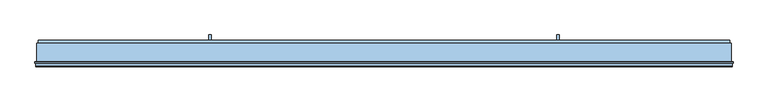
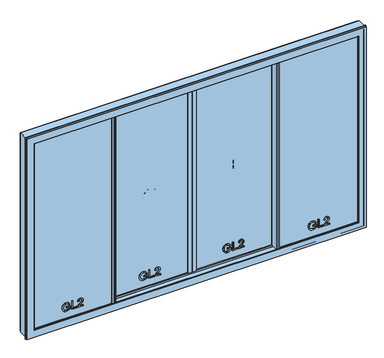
"""IFC4 building model written with IfcOpenShell, lengths in millimetres: window geometry, XL_XHS-9E_Metaglas : XL_XHS-9E_Metaglas."""

from ifc_helpers import new_model, si_unit, point, frame, frame_2d, origin, place, context, project, spatial, polyline, circle_curve, trimmed, segment, composite_curve, outline, extrude, faceted_brep, source, transform, mapped, element, save


def window_4e3b3f19(model_context):
    return source(origin(), model_context, "Body", "SolidModel", [
        extrude(outline(polyline([(979.25, -22.0486721), (1916.0, -22.0486721), (1916.0, -28.0486721), (979.25, -28.0486721), (979.25, -22.0486721)])), frame((0.0, 0.0, 85.6), z_axis=(0.0, 0.0, 1.0), x_axis=(1.0, 0.0, 0.0)), (0.0, 0.0, 1.0), 2330.4),
        extrude(outline(polyline([(2416.0, 1916.0), (2416.0, 979.25), (85.6, 979.25), (85.6, 1916.0), (2416.0, 1916.0)]), holes=[polyline([(98.6, 1903.0), (98.6, 992.25), (2403.0, 992.25), (2403.0, 1903.0), (98.6, 1903.0)])]), frame((0.0, -22.0486721, 0.0), z_axis=(0.0, 1.0, 0.0), x_axis=(0.0, 0.0, 1.0)), (0.0, 0.0, 1.0), 17.0),
        extrude(outline(polyline([(224.3483029, 1374.6372122), (224.3483029, 1402.8905494), (206.1994578, 1402.8905494), (199.3200645, 1390.1740951), (196.0949657, 1372.9940059), (200.3746595, 1353.8518794), (213.4712586, 1340.1176183), (235.3602373, 1335.396466), (255.0787122, 1339.3205406), (264.7540087, 1345.783001), (271.8663939, 1356.721359), (274.576458, 1372.7978022), (272.0625977, 1386.9122081), (265.3671454, 1396.6978691), (253.754337, 1402.4245655), (257.0162241, 1414.0005856), (273.6322275, 1406.4099538), (283.5650414, 1392.6389045), (287.1334967, 1372.9940059), (285.5945237, 1358.9041255), (280.9776047, 1346.5555532), (273.1938348, 1336.4173385), (262.1543093, 1328.9585311), (248.9933309, 1324.3692032), (234.8452025, 1322.8394272), (220.7982416, 1324.3753346), (208.1369696, 1328.9830566), (197.5818221, 1336.6043452), (189.8532345, 1347.1809526), (185.1167538, 1359.9127353), (183.5379269, 1373.99955), (187.5110524, 1395.2999176), (199.3568527, 1415.4475882), (236.9053417, 1415.4475882), (236.9053417, 1374.6372122), (224.3483029, 1374.6372122)])), frame((0.0, -38.0486721, 0.0), z_axis=(0.0, 1.0, 0.0), x_axis=(0.0, 0.0, 1.0)), (0.0, 0.0, 1.0), 10.0),
        extrude(outline(polyline([(185.1075567, 1435.8527762), (185.1075567, 1498.63797), (197.6645955, 1498.63797), (197.6645955, 1448.4098149), (285.5638669, 1448.4098149), (285.5638669, 1435.8527762), (185.1075567, 1435.8527762)])), frame((0.0, -38.0486721, 0.0), z_axis=(0.0, 1.0, 0.0), x_axis=(0.0, 0.0, 1.0)), (0.0, 0.0, 1.0), 10.0),
        extrude(outline(polyline([(197.6645955, 1572.4105728), (197.6645955, 1523.0898599), (204.0534795, 1528.7552427), (216.1322717, 1543.2007423), (233.3368863, 1561.1901719), (245.6486704, 1568.6091255), (257.5557843, 1570.8409429), (268.506405, 1568.7716067), (277.5195139, 1562.563598), (283.5527787, 1552.8055281), (285.5638669, 1540.0860081), (283.7551137, 1527.4584586), (278.3288543, 1517.6819946), (269.4567669, 1511.0999726), (257.3105297, 1508.0557491), (255.7408998, 1520.6127878), (268.4205659, 1525.8980258), (273.0068281, 1539.816228), (268.3102013, 1553.1703444), (256.7954949, 1558.2839041), (242.5707244, 1552.8760388), (221.6505016, 1531.2077893), (207.0946373, 1515.4747026), (193.7650464, 1507.8350199), (185.1075567, 1506.4861192), (185.1075567, 1572.4105728), (197.6645955, 1572.4105728)])), frame((0.0, -38.0486721, 0.0), z_axis=(0.0, 1.0, 0.0), x_axis=(0.0, 0.0, 1.0)), (0.0, 0.0, 1.0), 10.0),
        extrude(outline(polyline([(979.25, -22.0486721), (1916.0, -22.0486721), (1916.0, -25.0486721), (979.25, -25.0486721), (979.25, -22.0486721)])), frame((0.0, 0.0, 85.6), z_axis=(0.0, 0.0, 1.0), x_axis=(1.0, 0.0, 0.0)), (0.0, 0.0, 1.0), 2330.4),
        extrude(outline(polyline([(979.25, -25.0486721), (1916.0, -25.0486721), (1916.0, -28.0486721), (979.25, -28.0486721), (979.25, -25.0486721)])), frame((0.0, 0.0, 85.6), z_axis=(0.0, 0.0, 1.0), x_axis=(1.0, 0.0, 0.0)), (0.0, 0.0, 1.0), 2330.4),
        extrude(outline(polyline([(979.25, 0.9513279), (1916.0, 0.9513279), (1916.0, -2.0486721), (979.25, -2.0486721), (979.25, 0.9513279)])), frame((0.0, 0.0, 85.6), z_axis=(0.0, 0.0, 1.0), x_axis=(1.0, 0.0, 0.0)), (0.0, 0.0, 1.0), 2330.4),
        extrude(outline(polyline([(979.25, -2.0486721), (1916.0, -2.0486721), (1916.0, -5.0486721), (979.25, -5.0486721), (979.25, -2.0486721)])), frame((0.0, 0.0, 85.6), z_axis=(0.0, 0.0, 1.0), x_axis=(1.0, 0.0, 0.0)), (0.0, 0.0, 1.0), 2330.4),
        extrude(outline(polyline([(30.25, 62.8), (953.75, 62.8), (953.75, 56.8), (30.25, 56.8), (30.25, 62.8)])), frame((0.0, 0.0, 85.6), z_axis=(0.0, 0.0, 1.0), x_axis=(1.0, 0.0, 0.0)), (0.0, 0.0, 1.0), 2330.4),
        extrude(outline(polyline([(2416.0, 953.75), (2416.0, 30.25), (85.6, 30.25), (85.6, 953.75), (2416.0, 953.75)]), holes=[polyline([(98.6, 940.75), (98.6, 43.25), (2403.0, 43.25), (2403.0, 940.75), (98.6, 940.75)])]), frame((0.0, 62.8, 0.0), z_axis=(0.0, 1.0, 0.0), x_axis=(0.0, 0.0, 1.0)), (0.0, 0.0, 1.0), 17.0),
        extrude(outline(polyline([(224.3483029, 419.0122122), (224.3483029, 447.2655494), (206.1994578, 447.2655494), (199.3200645, 434.5490951), (196.0949657, 417.3690059), (200.3746595, 398.2268794), (213.4712586, 384.4926183), (235.3602373, 379.771466), (255.0787122, 383.6955406), (264.7540087, 390.158001), (271.8663939, 401.096359), (274.576458, 417.1728022), (272.0625977, 431.2872081), (265.3671454, 441.0728691), (253.754337, 446.7995655), (257.0162241, 458.3755856), (273.6322275, 450.7849538), (283.5650414, 437.0139045), (287.1334967, 417.3690059), (285.5945237, 403.2791255), (280.9776047, 390.9305532), (273.1938348, 380.7923385), (262.1543093, 373.3335311), (248.9933309, 368.7442032), (234.8452025, 367.2144272), (220.7982416, 368.7503346), (208.1369696, 373.3580566), (197.5818221, 380.9793452), (189.8532345, 391.5559526), (185.1167538, 404.2877353), (183.5379269, 418.37455), (187.5110524, 439.6749176), (199.3568527, 459.8225882), (236.9053417, 459.8225882), (236.9053417, 419.0122122), (224.3483029, 419.0122122)])), frame((0.0, 46.8, 0.0), z_axis=(0.0, 1.0, 0.0), x_axis=(0.0, 0.0, 1.0)), (0.0, 0.0, 1.0), 10.0),
        extrude(outline(polyline([(185.1075567, 480.2277762), (185.1075567, 543.01297), (197.6645955, 543.01297), (197.6645955, 492.7848149), (285.5638669, 492.7848149), (285.5638669, 480.2277762), (185.1075567, 480.2277762)])), frame((0.0, 46.8, 0.0), z_axis=(0.0, 1.0, 0.0), x_axis=(0.0, 0.0, 1.0)), (0.0, 0.0, 1.0), 10.0),
        extrude(outline(polyline([(197.6645955, 616.7855728), (197.6645955, 567.4648599), (204.0534795, 573.1302427), (216.1322717, 587.5757423), (233.3368863, 605.5651719), (245.6486704, 612.9841255), (257.5557843, 615.2159429), (268.506405, 613.1466067), (277.5195139, 606.938598), (283.5527787, 597.1805281), (285.5638669, 584.4610081), (283.7551137, 571.8334586), (278.3288543, 562.0569946), (269.4567669, 555.4749726), (257.3105297, 552.4307491), (255.7408998, 564.9877878), (268.4205659, 570.2730258), (273.0068281, 584.191228), (268.3102013, 597.5453444), (256.7954949, 602.6589041), (242.5707244, 597.2510388), (221.6505016, 575.5827893), (207.0946373, 559.8497026), (193.7650464, 552.2100199), (185.1075567, 550.8611192), (185.1075567, 616.7855728), (197.6645955, 616.7855728)])), frame((0.0, 46.8, 0.0), z_axis=(0.0, 1.0, 0.0), x_axis=(0.0, 0.0, 1.0)), (0.0, 0.0, 1.0), 10.0),
        extrude(outline(polyline([(30.25, 62.8), (953.75, 62.8), (953.75, 59.8), (30.25, 59.8), (30.25, 62.8)])), frame((0.0, 0.0, 85.6), z_axis=(0.0, 0.0, 1.0), x_axis=(1.0, 0.0, 0.0)), (0.0, 0.0, 1.0), 2330.4),
        extrude(outline(polyline([(30.25, 59.8), (953.75, 59.8), (953.75, 56.8), (30.25, 56.8), (30.25, 59.8)])), frame((0.0, 0.0, 85.6), z_axis=(0.0, 0.0, 1.0), x_axis=(1.0, 0.0, 0.0)), (0.0, 0.0, 1.0), 2330.4),
        extrude(outline(polyline([(30.25, 85.8), (953.75, 85.8), (953.75, 82.8), (30.25, 82.8), (30.25, 85.8)])), frame((0.0, 0.0, 85.6), z_axis=(0.0, 0.0, 1.0), x_axis=(1.0, 0.0, 0.0)), (0.0, 0.0, 1.0), 2330.4),
        extrude(outline(polyline([(30.25, 82.8), (953.75, 82.8), (953.75, 79.8), (30.25, 79.8), (30.25, 82.8)])), frame((0.0, 0.0, 85.6), z_axis=(0.0, 0.0, 1.0), x_axis=(1.0, 0.0, 0.0)), (0.0, 0.0, 1.0), 2330.4),
        extrude(outline(composite_curve([segment(trimmed(circle_curve(frame_2d((27.9933183, 1063.3761618)), 10.0), [point((17.9933183, 1063.3761618))], [point((37.9933183, 1063.3761618))], False, "CARTESIAN"), True, "CONTINUOUS"), segment(trimmed(circle_curve(frame_2d((27.9933183, 1063.3761618)), 10.0), [point((37.9933183, 1063.3761618))], [point((17.9933183, 1063.3761618))], False, "CARTESIAN"), True, "CONTINUOUS")], self_intersect=False)), frame((1004.5, 0.0, 0.0), z_axis=(1.0, 0.0, 0.0), x_axis=(0.0, 1.0, 0.0)), (0.0, 0.0, 1.0), 33.0),
        extrude(outline(polyline([(1004.5, 53.9933183), (1004.5, 67.9933183), (1017.5, 67.9933183), (1017.5, 53.9933183), (1004.5, 53.9933183)])), frame((0.0, 0.0, 1080.3761618), z_axis=(0.0, 0.0, 1.0), x_axis=(1.0, 0.0, 0.0)), (0.0, 0.0, 1.0), 65.0),
        extrude(outline(polyline([(1004.5, 132.9933183), (1004.5, 15.9933183), (990.5, 15.9933183), (990.5, 132.9933183), (1004.5, 132.9933183)])), frame((0.0, 0.0, 1037.8761618), z_axis=(0.0, 0.0, 1.0), x_axis=(1.0, 0.0, 0.0)), (0.0, 0.0, 1.0), 127.0),
        extrude(outline(polyline([(1310.8, 1427.625), (1270.8, 1427.625), (1270.8, 1387.625), (1230.8, 1387.625), (1230.8, 1427.625), (1190.8, 1427.625), (1190.8, 1467.625), (1230.8, 1467.625), (1230.8, 1507.625), (1270.8, 1507.625), (1270.8, 1467.625), (1310.8, 1467.625), (1310.8, 1427.625)])), frame((0.0, -21.2986721, 0.0), z_axis=(0.0, 1.0, 0.0), x_axis=(0.0, 0.0, 1.0)), (0.0, 0.0, 1.0), 10.0),
        extrude(outline(polyline([(1263.3, 429.7), (1238.3, 429.7), (1238.3, 492.0), (1201.4, 492.0), (1250.8, 554.3), (1300.2, 492.0), (1263.3, 492.0), (1263.3, 429.7)])), frame((0.0, 58.3, 0.0), z_axis=(0.0, 1.0, 0.0), x_axis=(0.0, 0.0, 1.0)), (0.0, 0.0, 1.0), 10.0),
        extrude(outline(composite_curve([segment(trimmed(circle_curve(frame_2d((27.9822502, 1063.3761618)), 10.0), [point((17.9822502, 1063.3761618))], [point((37.9822502, 1063.3761618))], False, "CARTESIAN"), True, "CONTINUOUS"), segment(trimmed(circle_curve(frame_2d((27.9822502, 1063.3761618)), 10.0), [point((37.9822502, 1063.3761618))], [point((17.9822502, 1063.3761618))], False, "CARTESIAN"), True, "CONTINUOUS")], self_intersect=False)), frame((-1037.5, 0.0, 0.0), z_axis=(1.0, 0.0, 0.0), x_axis=(0.0, 1.0, 0.0)), (0.0, 0.0, 1.0), 33.0),
        extrude(outline(polyline([(-1004.5, 67.9822502), (-1004.5, 53.9822502), (-1017.5, 53.9822502), (-1017.5, 67.9822502), (-1004.5, 67.9822502)])), frame((0.0, 0.0, 1080.3761618), z_axis=(0.0, 0.0, 1.0), x_axis=(1.0, 0.0, 0.0)), (0.0, 0.0, 1.0), 65.0),
        extrude(outline(polyline([(-990.5, 132.9822502), (-990.5, 15.9822502), (-1004.5, 15.9822502), (-1004.5, 132.9822502), (-990.5, 132.9822502)])), frame((0.0, 0.0, 1037.8761618), z_axis=(0.0, 0.0, 1.0), x_axis=(1.0, 0.0, 0.0)), (0.0, 0.0, 1.0), 127.0),
        extrude(outline(polyline([(-953.75, 62.8), (-30.25, 62.8), (-30.25, 56.8), (-953.75, 56.8), (-953.75, 62.8)])), frame((0.0, 0.0, 85.6), z_axis=(0.0, 0.0, 1.0), x_axis=(1.0, 0.0, 0.0)), (0.0, 0.0, 1.0), 2330.4),
        extrude(outline(polyline([(2416.0, -30.25), (2416.0, -953.75), (85.6, -953.75), (85.6, -30.25), (2416.0, -30.25)]), holes=[polyline([(98.6, -43.25), (98.6, -940.75), (2403.0, -940.75), (2403.0, -43.25), (98.6, -43.25)])]), frame((0.0, 62.8, 0.0), z_axis=(0.0, 1.0, 0.0), x_axis=(0.0, 0.0, 1.0)), (0.0, 0.0, 1.0), 17.0),
        extrude(outline(polyline([(224.3483029, -564.9877878), (224.3483029, -536.7344506), (206.1994578, -536.7344506), (199.3200645, -549.4509049), (196.0949657, -566.6309941), (200.3746595, -585.7731206), (213.4712586, -599.5073817), (235.3602373, -604.228534), (255.0787122, -600.3044594), (264.7540087, -593.841999), (271.8663939, -582.903641), (274.576458, -566.8271978), (272.0625977, -552.7127919), (265.3671454, -542.9271309), (253.754337, -537.2004345), (257.0162241, -525.6244144), (273.6322275, -533.2150462), (283.5650414, -546.9860955), (287.1334967, -566.6309941), (285.5945237, -580.7208745), (280.9776047, -593.0694468), (273.1938348, -603.2076615), (262.1543093, -610.6664689), (248.9933309, -615.2557968), (234.8452025, -616.7855728), (220.7982416, -615.2496654), (208.1369696, -610.6419434), (197.5818221, -603.0206548), (189.8532345, -592.4440474), (185.1167538, -579.7122647), (183.5379269, -565.62545), (187.5110524, -544.3250824), (199.3568527, -524.1774118), (236.9053417, -524.1774118), (236.9053417, -564.9877878), (224.3483029, -564.9877878)])), frame((0.0, 46.8, 0.0), z_axis=(0.0, 1.0, 0.0), x_axis=(0.0, 0.0, 1.0)), (0.0, 0.0, 1.0), 10.0),
        extrude(outline(polyline([(185.1075567, -503.7722238), (185.1075567, -440.98703), (197.6645955, -440.98703), (197.6645955, -491.2151851), (285.5638669, -491.2151851), (285.5638669, -503.7722238), (185.1075567, -503.7722238)])), frame((0.0, 46.8, 0.0), z_axis=(0.0, 1.0, 0.0), x_axis=(0.0, 0.0, 1.0)), (0.0, 0.0, 1.0), 10.0),
        extrude(outline(polyline([(197.6645955, -367.2144272), (197.6645955, -416.5351401), (204.0534795, -410.8697573), (216.1322717, -396.4242577), (233.3368863, -378.4348281), (245.6486704, -371.0158745), (257.5557843, -368.7840571), (268.506405, -370.8533933), (277.5195139, -377.061402), (283.5527787, -386.8194719), (285.5638669, -399.5389919), (283.7551137, -412.1665414), (278.3288543, -421.9430054), (269.4567669, -428.5250274), (257.3105297, -431.5692509), (255.7408998, -419.0122122), (268.4205659, -413.7269742), (273.0068281, -399.808772), (268.3102013, -386.4546556), (256.7954949, -381.3410959), (242.5707244, -386.7489612), (221.6505016, -408.4172107), (207.0946373, -424.1502974), (193.7650464, -431.7899801), (185.1075567, -433.1388808), (185.1075567, -367.2144272), (197.6645955, -367.2144272)])), frame((0.0, 46.8, 0.0), z_axis=(0.0, 1.0, 0.0), x_axis=(0.0, 0.0, 1.0)), (0.0, 0.0, 1.0), 10.0),
        extrude(outline(polyline([(-953.75, 62.8), (-30.25, 62.8), (-30.25, 59.8), (-953.75, 59.8), (-953.75, 62.8)])), frame((0.0, 0.0, 85.6), z_axis=(0.0, 0.0, 1.0), x_axis=(1.0, 0.0, 0.0)), (0.0, 0.0, 1.0), 2330.4),
        extrude(outline(polyline([(-953.75, 59.8), (-30.25, 59.8), (-30.25, 56.8), (-953.75, 56.8), (-953.75, 59.8)])), frame((0.0, 0.0, 85.6), z_axis=(0.0, 0.0, 1.0), x_axis=(1.0, 0.0, 0.0)), (0.0, 0.0, 1.0), 2330.4),
        extrude(outline(polyline([(-953.75, 85.8), (-30.25, 85.8), (-30.25, 82.8), (-953.75, 82.8), (-953.75, 85.8)])), frame((0.0, 0.0, 85.6), z_axis=(0.0, 0.0, 1.0), x_axis=(1.0, 0.0, 0.0)), (0.0, 0.0, 1.0), 2330.4),
        extrude(outline(polyline([(-953.75, 82.8), (-30.25, 82.8), (-30.25, 79.8), (-953.75, 79.8), (-953.75, 82.8)])), frame((0.0, 0.0, 85.6), z_axis=(0.0, 0.0, 1.0), x_axis=(1.0, 0.0, 0.0)), (0.0, 0.0, 1.0), 2330.4),
        extrude(outline(polyline([(-1916.0, -22.0486721), (-979.25, -22.0486721), (-979.25, -28.0486721), (-1916.0, -28.0486721), (-1916.0, -22.0486721)])), frame((0.0, 0.0, 85.6), z_axis=(0.0, 0.0, 1.0), x_axis=(1.0, 0.0, 0.0)), (0.0, 0.0, 1.0), 2330.4),
        extrude(outline(polyline([(2416.0, -979.25), (2416.0, -1916.0), (85.6, -1916.0), (85.6, -979.25), (2416.0, -979.25)]), holes=[polyline([(98.6, -992.25), (98.6, -1903.0), (2403.0, -1903.0), (2403.0, -992.25), (98.6, -992.25)])]), frame((0.0, -22.0486721, 0.0), z_axis=(0.0, 1.0, 0.0), x_axis=(0.0, 0.0, 1.0)), (0.0, 0.0, 1.0), 17.0),
        extrude(outline(polyline([(224.3483029, -1520.6127878), (224.3483029, -1492.3594506), (206.1994578, -1492.3594506), (199.3200645, -1505.0759049), (196.0949657, -1522.2559941), (200.3746595, -1541.3981206), (213.4712586, -1555.1323817), (235.3602373, -1559.853534), (255.0787122, -1555.9294594), (264.7540087, -1549.466999), (271.8663939, -1538.528641), (274.576458, -1522.4521978), (272.0625977, -1508.3377919), (265.3671454, -1498.5521309), (253.754337, -1492.8254345), (257.0162241, -1481.2494144), (273.6322275, -1488.8400462), (283.5650414, -1502.6110955), (287.1334967, -1522.2559941), (285.5945237, -1536.3458745), (280.9776047, -1548.6944468), (273.1938348, -1558.8326615), (262.1543093, -1566.2914689), (248.9933309, -1570.8807968), (234.8452025, -1572.4105728), (220.7982416, -1570.8746654), (208.1369696, -1566.2669434), (197.5818221, -1558.6456548), (189.8532345, -1548.0690474), (185.1167538, -1535.3372647), (183.5379269, -1521.25045), (187.5110524, -1499.9500824), (199.3568527, -1479.8024118), (236.9053417, -1479.8024118), (236.9053417, -1520.6127878), (224.3483029, -1520.6127878)])), frame((0.0, -38.0486721, 0.0), z_axis=(0.0, 1.0, 0.0), x_axis=(0.0, 0.0, 1.0)), (0.0, 0.0, 1.0), 10.0),
        extrude(outline(polyline([(185.1075567, -1459.3972238), (185.1075567, -1396.61203), (197.6645955, -1396.61203), (197.6645955, -1446.8401851), (285.5638669, -1446.8401851), (285.5638669, -1459.3972238), (185.1075567, -1459.3972238)])), frame((0.0, -38.0486721, 0.0), z_axis=(0.0, 1.0, 0.0), x_axis=(0.0, 0.0, 1.0)), (0.0, 0.0, 1.0), 10.0),
        extrude(outline(polyline([(197.6645955, -1322.8394272), (197.6645955, -1372.1601401), (204.0534795, -1366.4947573), (216.1322717, -1352.0492577), (233.3368863, -1334.0598281), (245.6486704, -1326.6408745), (257.5557843, -1324.4090571), (268.506405, -1326.4783933), (277.5195139, -1332.686402), (283.5527787, -1342.4444719), (285.5638669, -1355.1639919), (283.7551137, -1367.7915414), (278.3288543, -1377.5680054), (269.4567669, -1384.1500274), (257.3105297, -1387.1942509), (255.7408998, -1374.6372122), (268.4205659, -1369.3519742), (273.0068281, -1355.433772), (268.3102013, -1342.0796556), (256.7954949, -1336.9660959), (242.5707244, -1342.3739612), (221.6505016, -1364.0422107), (207.0946373, -1379.7752974), (193.7650464, -1387.4149801), (185.1075567, -1388.7638808), (185.1075567, -1322.8394272), (197.6645955, -1322.8394272)])), frame((0.0, -38.0486721, 0.0), z_axis=(0.0, 1.0, 0.0), x_axis=(0.0, 0.0, 1.0)), (0.0, 0.0, 1.0), 10.0),
        extrude(outline(polyline([(-1916.0, -22.0486721), (-979.25, -22.0486721), (-979.25, -25.0486721), (-1916.0, -25.0486721), (-1916.0, -22.0486721)])), frame((0.0, 0.0, 85.6), z_axis=(0.0, 0.0, 1.0), x_axis=(1.0, 0.0, 0.0)), (0.0, 0.0, 1.0), 2330.4),
        extrude(outline(polyline([(-1916.0, -25.0486721), (-979.25, -25.0486721), (-979.25, -28.0486721), (-1916.0, -28.0486721), (-1916.0, -25.0486721)])), frame((0.0, 0.0, 85.6), z_axis=(0.0, 0.0, 1.0), x_axis=(1.0, 0.0, 0.0)), (0.0, 0.0, 1.0), 2330.4),
        extrude(outline(polyline([(-1916.0, 0.9513279), (-979.25, 0.9513279), (-979.25, -2.0486721), (-1916.0, -2.0486721), (-1916.0, 0.9513279)])), frame((0.0, 0.0, 85.6), z_axis=(0.0, 0.0, 1.0), x_axis=(1.0, 0.0, 0.0)), (0.0, 0.0, 1.0), 2330.4),
        extrude(outline(polyline([(-1916.0, -2.0486721), (-979.25, -2.0486721), (-979.25, -5.0486721), (-1916.0, -5.0486721), (-1916.0, -2.0486721)])), frame((0.0, 0.0, 85.6), z_axis=(0.0, 0.0, 1.0), x_axis=(1.0, 0.0, 0.0)), (0.0, 0.0, 1.0), 2330.4),
        extrude(outline(polyline([(1263.3, -429.7), (1263.3, -492.0), (1300.2, -492.0), (1250.8, -554.3), (1201.4, -492.0), (1238.3, -492.0), (1238.3, -429.7), (1263.3, -429.7)])), frame((0.0, 58.3, 0.0), z_axis=(0.0, 1.0, 0.0), x_axis=(0.0, 0.0, 1.0)), (0.0, 0.0, 1.0), 10.0),
        extrude(outline(polyline([(1310.8, -1467.625), (1270.8, -1467.625), (1270.8, -1507.625), (1230.8, -1507.625), (1230.8, -1467.625), (1190.8, -1467.625), (1190.8, -1427.625), (1230.8, -1427.625), (1230.8, -1387.625), (1270.8, -1387.625), (1270.8, -1427.625), (1310.8, -1427.625), (1310.8, -1467.625)])), frame((0.0, -21.2986721, 0.0), z_axis=(0.0, 1.0, 0.0), x_axis=(0.0, 0.0, 1.0)), (0.0, 0.0, 1.0), 10.0),
        faceted_brep([(1921.3999235, -39.4974407, 2421.3999235), (1921.3999235, -41.2974407, 2421.3999235), (1921.3999235, -41.2974407, 78.6000765), (1921.3999235, -39.4974407, 78.6000765), (1936.8499257, -41.2974407, 63.1500743), (-1936.8499257, -41.2974407, 63.1500743), (-1936.8499257, -41.2974407, 2436.8499257), (1936.8499257, -41.2974407, 2436.8499257), (-1921.3999235, -41.2974407, 2421.3999235), (-1921.3999235, -41.2974407, 78.6000765), (-1921.3999235, -39.4974407, 78.6000765), (-1921.3999235, -39.4974407, 2421.3999235), (1907.2000109, -39.4974407, 2407.2000109), (-1907.2000109, -39.4974407, 2407.2000109), (-1907.2000109, -39.4974407, 92.7999891), (1907.2000109, -39.4974407, 92.7999891), (1936.8499257, -39.4974407, 2436.8499257), (1936.8499257, -39.4974407, 63.1500743), (1954.9499135, -39.4974407, 45.0500865), (-1954.9499135, -39.4974407, 45.0500865), (-1954.9499135, -39.4974407, 2454.9499135), (1954.9499135, -39.4974407, 2454.9499135), (-1936.8499257, -39.4974407, 2436.8499257), (-1936.8499257, -39.4974407, 63.1500743), (1954.9499135, -43.2972427, 2454.9499135), (1954.9499135, -43.2972427, 45.0500865), (1967.6999683, -43.2972427, 32.3000317), (-1967.6999683, -43.2972427, 32.3000317), (-1967.6999683, -43.2972427, 2467.6999683), (1967.6999683, -43.2972427, 2467.6999683), (-1954.9499135, -43.2972427, 2454.9499135), (-1954.9499135, -43.2972427, 45.0500865), (1969.8212887, -42.4187944, 2469.8212887), (1969.8212887, -42.4187944, 30.1787113), (1970.6999683, -40.297474, 2470.6999683), (1970.6999683, -40.297474, 29.3000317), (-1969.8212887, -42.4187944, 30.1787113), (1970.6999683, 13.8542105, 2470.6999683), (1970.6999683, 13.8542105, 29.3000317), (-1970.6999683, -40.297474, 29.3000317), (1969.2355022, 17.3897444, 2469.2355022), (1969.2355022, 17.3897444, 30.7644978), (-1970.6999683, 13.8542105, 29.3000317), (1965.6999683, 18.8542105, 2465.6999683), (1965.6999683, 18.8542105, 34.3000317), (-1969.2355022, 17.3897444, 30.7644978), (-1965.6999683, 18.8542105, 2465.6999683), (-1965.6999683, 18.8542105, 34.3000317), (1949.0999628, 18.8542105, 50.9000372), (-1949.0999628, 18.8542105, 50.9000372), (-1949.0999628, 18.8542105, 2449.0999628), (1949.0999628, 18.8542105, 2449.0999628), (1949.0999628, 17.0041087, 2449.0999628), (1949.0999628, 17.0041087, 50.9000372), (-1949.0999628, 17.0041087, 2449.0999628), (-1949.0999628, 17.0041087, 50.9000372), (1941.1999683, 17.0041087, 58.8000317), (-1941.1999683, 17.0041087, 58.8000317), (-1941.1999683, 17.0041087, 2441.1999683), (1941.1999683, 17.0041087, 2441.1999683), (1941.1999683, 18.8542105, 2441.1999683), (1941.1999683, 18.8542105, 58.8000317), (-1941.1999683, 18.8542105, 2441.1999683), (-1941.1999683, 18.8542105, 58.8000317), (1928.7000102, 18.8542105, 71.2999898), (-1928.7000102, 18.8542105, 71.2999898), (-1928.7000102, 18.8542105, 2428.7000102), (1928.7000102, 18.8542105, 2428.7000102), (1928.7000102, 17.00255, 2428.7000102), (1928.7000102, 17.00255, 71.2999898), (-1928.7000102, 17.00255, 2428.7000102), (-1928.7000102, 17.00255, 71.2999898), (1907.2000101, 17.00255, 92.7999899), (-1907.2000101, 17.00255, 92.7999899), (-1907.2000101, 17.00255, 2407.2000101), (1907.2000101, 17.00255, 2407.2000101), (1907.2000101, 40.3025501, 2407.2000101), (1907.2000101, 40.3025501, 92.7999899), (1928.7000102, 40.3025501, 71.2999898), (-1928.7000102, 40.3025501, 71.2999898), (-1928.7000102, 40.3025501, 2428.7000102), (1928.7000102, 40.3025501, 2428.7000102), (-1907.2000101, 40.3025501, 2407.2000101), (-1907.2000101, 40.3025501, 92.7999899), (1928.7000102, 38.3025501, 2428.7000102), (1928.7000102, 38.3025501, 71.2999898), (1941.2219878, 38.3025501, 58.7780122), (-1941.2219878, 38.3025501, 58.7780122), (-1941.2219878, 38.3025501, 2441.2219878), (1941.2219878, 38.3025501, 2441.2219878), (-1928.7000102, 38.3025501, 2428.7000102), (-1928.7000102, 38.3025501, 71.2999898), (1941.2219878, 40.1009632, 2441.2219878), (1941.2219878, 40.1009632, 58.7780122), (1949.1219823, 40.1009632, 50.8780177), (-1949.1219823, 40.1009632, 50.8780177), (-1949.1219823, 40.1009632, 2449.1219823), (1949.1219823, 40.1009632, 2449.1219823), (-1941.2219878, 40.1009632, 2441.2219878), (-1941.2219878, 40.1009632, 58.7780122), (1949.1219823, 38.2508609, 2449.1219823), (1949.1219823, 38.2508609, 50.8780177), (1965.7226763, 38.2508609, 34.2773237), (-1965.7226763, 38.2508609, 34.2773237), (-1965.7226763, 38.2508609, 2465.7226763), (1965.7226763, 38.2508609, 2465.7226763), (-1949.1219823, 38.2508609, 2449.1219823), (-1949.1219823, 38.2508609, 50.8780177), (1969.2582102, 39.715327, 2469.2582102), (1969.2582102, 39.715327, 30.7417898), (1970.7226763, 43.2508609, 2470.7226763), (1970.7226763, 43.2508609, 29.2773237), (-1969.2582102, 39.715327, 30.7417898), (1970.7226763, 97.4025672, 2470.7226763), (1970.7226763, 97.4025672, 29.2773237), (-1970.7226763, 43.2508609, 29.2773237), (1969.8439966, 99.5238875, 2469.8439966), (1969.8439966, 99.5238875, 30.1560034), (-1970.7226763, 97.4025672, 29.2773237), (1967.7226763, 100.4025672, 2467.7226763), (1967.7226763, 100.4025672, 32.2773237), (-1969.8439966, 99.5238875, 30.1560034), (-1967.7226763, 100.4025672, 2467.7226763), (-1967.7226763, 100.4025672, 32.2773237), (1937.7723175, 100.4025672, 62.2276825), (-1937.7723175, 100.4025672, 62.2276825), (-1937.7723175, 100.4025672, 2437.7723175), (1937.7723175, 100.4025672, 2437.7723175), (1937.7723175, 96.6025324, 2437.7723175), (1937.7723175, 96.6025324, 62.2276825), (-1937.7723175, 96.6025324, 2437.7723175), (-1937.7723175, 96.6025324, 62.2276825), (1907.222332, 96.6025324, 92.777668), (-1907.222332, 96.6025324, 92.777668), (-1907.222332, 96.6025324, 2407.222332), (1907.222332, 96.6025324, 2407.222332), (1907.222332, 100.4025324, 2407.222332), (1907.222332, 100.4025324, 92.777668), (1908.0971217, 102.5199556, 2408.0971217), (1908.0971217, 102.5199556, 91.9028783), (-1907.222332, 100.4025324, 92.777668), (1910.2113195, 103.4025122, 2410.2113195), (1910.2113195, 103.4025122, 89.7886805), (-1908.0971217, 102.5199556, 91.9028783), (1981.7280274, 103.4025122, 18.2719726), (-1981.7280274, 103.4025122, 18.2719726), (-1981.7280274, 103.4025122, 2481.7280274), (1981.7280274, 103.4025122, 2481.7280274), (-1910.2113195, 103.4025122, 2410.2113195), (-1910.2113195, 103.4025122, 89.7886805), (1981.7280274, 45.7517947, 2481.7280274), (1981.7280274, 45.7517947, 18.2719726), (1985.0219895, 45.7517947, 14.9780105), (-1985.0219895, 45.7517947, 14.9780105), (-1985.0219895, 45.7517947, 2485.0219895), (1985.0219895, 45.7517947, 2485.0219895), (-1981.7280274, 45.7517947, 2481.7280274), (-1981.7280274, 45.7517947, 18.2719726), (1985.0219895, 38.8926376, 2485.0219895), (1985.0219895, 38.8926376, 14.9780105), (1981.7280274, 39.4549169, 2481.7280274), (1981.7280274, 39.4549169, 18.2719726), (-1985.0219895, 38.8926376, 14.9780105), (1981.7280274, 17.6566355, 2481.7280274), (1981.7280274, 17.6566355, 18.2719726), (-1981.7280274, 39.4549169, 18.2719726), (1984.9999912, 18.2124345, 2484.9999912), (1984.9999912, 18.2124345, 15.0000088), (-1981.7280274, 17.6566355, 18.2719726), (1907.2000109, -45.7974407, 2407.2000109), (1907.2000109, -45.7974407, 92.7999891), (-1907.2000109, -45.7974407, 92.7999891), (1907.9102446, -47.7357312, 2407.9102446), (1907.9102446, -47.7357312, 92.0897554), (-1969.8212887, -42.4187944, 2469.8212887), (-1970.6999683, -40.297474, 2470.6999683), (-1970.6999683, 13.8542105, 2470.6999683), (-1969.2355022, 17.3897444, 2469.2355022), (-1969.2582102, 39.715327, 2469.2582102), (-1970.7226763, 43.2508609, 2470.7226763), (-1970.7226763, 97.4025672, 2470.7226763), (-1969.8439966, 99.5238875, 2469.8439966), (-1907.222332, 100.4025324, 2407.222332), (-1908.0971217, 102.5199556, 2408.0971217), (-1985.0219895, 38.8926376, 2485.0219895), (-1981.7280274, 39.4549169, 2481.7280274), (-1984.9999912, 18.2124345, 15.0000088), (-1981.7280274, 17.6566355, 2481.7280274), (-1907.2000109, -45.7974407, 2407.2000109), (-1907.9102446, -47.7357312, 92.0897554), (-1984.9999912, 18.2124345, 2484.9999912), (-1907.9102446, -47.7357312, 2407.9102446), (1984.9999912, 11.3532947, 2484.9999912), (1984.9999912, 11.3532947, 15.0000088), (-1984.9999912, 11.3532947, 2484.9999912), (-1984.9999912, 11.3532947, 15.0000088), (1981.6999683, 11.3532947, 18.3000317), (-1981.6999683, 11.3532947, 18.3000317), (-1981.6999683, 11.3532947, 2481.6999683), (1981.6999683, 11.3532947, 2481.6999683), (1981.6999683, -26.9457537, 2481.6999683), (1981.6999683, -26.9457537, 18.3000317), (1991.6999768, -26.9457537, 8.3000232), (-1991.6999768, -26.9457537, 8.3000232), (-1991.6999768, -26.9457537, 2491.6999768), (1991.6999768, -26.9457537, 2491.6999768), (-1981.6999683, -26.9457537, 2481.6999683), (-1981.6999683, -26.9457537, 18.3000317), (1991.6999768, -23.8957567, 2491.6999768), (1991.6999768, -23.8957567, 8.3000232), (2000.1999683, -23.8957567, -0.1999683), (-2000.1999683, -23.8957567, -0.1999683), (-2000.1999683, -23.8957567, 2500.1999683), (2000.1999683, -23.8957567, 2500.1999683), (-1991.6999768, -23.8957567, 2491.6999768), (-1991.6999768, -23.8957567, 8.3000232), (2000.1999683, -28.6974407, 2500.1999683), (2000.1999683, -28.6974407, -0.1999683), (-2000.1999683, -28.6974407, 2500.1999683), (-2000.1999683, -28.6974407, -0.1999683), (1994.7000109, -28.6974407, 5.2999891), (-1994.7000109, -28.6974407, 5.2999891), (-1994.7000109, -28.6974407, 2494.7000109), (1994.7000109, -28.6974407, 2494.7000109), (1994.7000109, -46.2957343, 2494.7000109), (1994.7000109, -46.2957343, 5.2999891), (1996.7000109, -46.2957343, 3.2999891), (-1996.7000109, -46.2957343, 3.2999891), (-1996.7000109, -46.2957343, 2496.7000109), (1996.7000109, -46.2957343, 2496.7000109), (-1994.7000109, -46.2957343, 2494.7000109), (-1994.7000109, -46.2957343, 5.2999891), (1996.7000109, -48.7974407, 2496.7000109), (1996.7000109, -48.7974407, 3.2999891), (-1996.7000109, -48.7974407, 2496.7000109), (-1996.7000109, -48.7974407, 3.2999891), (1910.2000109, -48.7974407, 89.7999891), (-1910.2000109, -48.7974407, 89.7999891), (-1910.2000109, -48.7974407, 2410.2000109), (1910.2000109, -48.7974407, 2410.2000109)], [[[0, 1, 2, 3]], [[4, 5, 6, 7], [1, 8, 9, 2]], [[3, 2, 9, 10]], [[3, 10, 11, 0], [12, 13, 14, 15]], [[7, 16, 17, 4]], [[18, 19, 20, 21], [16, 22, 23, 17]], [[4, 17, 23, 5]], [[21, 24, 25, 18]], [[26, 27, 28, 29], [24, 30, 31, 25]], [[18, 25, 31, 19]], [[29, 32, 33, 26]], [[32, 34, 35, 33]], [[26, 33, 36, 27]], [[34, 37, 38, 35]], [[33, 35, 39, 36]], [[37, 40, 41, 38]], [[35, 38, 42, 39]], [[40, 43, 44, 41]], [[38, 41, 45, 42]], [[43, 46, 47, 44], [48, 49, 50, 51]], [[41, 44, 47, 45]], [[51, 52, 53, 48]], [[52, 54, 55, 53], [56, 57, 58, 59]], [[48, 53, 55, 49]], [[59, 60, 61, 56]], [[60, 62, 63, 61], [64, 65, 66, 67]], [[56, 61, 63, 57]], [[67, 68, 69, 64]], [[68, 70, 71, 69], [72, 73, 74, 75]], [[64, 69, 71, 65]], [[75, 76, 77, 72]], [[78, 79, 80, 81], [76, 82, 83, 77]], [[72, 77, 83, 73]], [[81, 84, 85, 78]], [[86, 87, 88, 89], [84, 90, 91, 85]], [[78, 85, 91, 79]], [[89, 92, 93, 86]], [[94, 95, 96, 97], [92, 98, 99, 93]], [[86, 93, 99, 87]], [[97, 100, 101, 94]], [[102, 103, 104, 105], [100, 106, 107, 101]], [[94, 101, 107, 95]], [[105, 108, 109, 102]], [[108, 110, 111, 109]], [[102, 109, 112, 103]], [[110, 113, 114, 111]], [[109, 111, 115, 112]], [[113, 116, 117, 114]], [[111, 114, 118, 115]], [[116, 119, 120, 117]], [[114, 117, 121, 118]], [[119, 122, 123, 120], [124, 125, 126, 127]], [[117, 120, 123, 121]], [[127, 128, 129, 124]], [[128, 130, 131, 129], [132, 133, 134, 135]], [[124, 129, 131, 125]], [[135, 136, 137, 132]], [[136, 138, 139, 137]], [[132, 137, 140, 133]], [[138, 141, 142, 139]], [[137, 139, 143, 140]], [[144, 145, 146, 147], [141, 148, 149, 142]], [[139, 142, 149, 143]], [[147, 150, 151, 144]], [[152, 153, 154, 155], [150, 156, 157, 151]], [[144, 151, 157, 145]], [[155, 158, 159, 152]], [[158, 160, 161, 159]], [[152, 159, 162, 153]], [[160, 163, 164, 161]], [[159, 161, 165, 162]], [[163, 166, 167, 164]], [[161, 164, 168, 165]], [[169, 12, 15, 170]], [[170, 15, 14, 171]], [[172, 169, 170, 173]], [[10, 9, 8, 11]], [[5, 23, 22, 6]], [[19, 31, 30, 20]], [[27, 36, 174, 28]], [[36, 39, 175, 174]], [[39, 42, 176, 175]], [[42, 45, 177, 176]], [[45, 47, 46, 177]], [[49, 55, 54, 50]], [[57, 63, 62, 58]], [[65, 71, 70, 66]], [[73, 83, 82, 74]], [[79, 91, 90, 80]], [[87, 99, 98, 88]], [[95, 107, 106, 96]], [[103, 112, 178, 104]], [[112, 115, 179, 178]], [[115, 118, 180, 179]], [[118, 121, 181, 180]], [[121, 123, 122, 181]], [[125, 131, 130, 126]], [[133, 140, 182, 134]], [[140, 143, 183, 182]], [[143, 149, 148, 183]], [[145, 157, 156, 146]], [[153, 162, 184, 154]], [[162, 165, 185, 184]], [[164, 167, 186, 168]], [[165, 168, 187, 185]], [[171, 14, 13, 188]], [[173, 170, 171, 189]], [[168, 186, 190, 187]], [[189, 171, 188, 191]], [[166, 192, 193, 167]], [[192, 194, 195, 193], [196, 197, 198, 199]], [[167, 193, 195, 186]], [[199, 200, 201, 196]], [[202, 203, 204, 205], [200, 206, 207, 201]], [[196, 201, 207, 197]], [[205, 208, 209, 202]], [[210, 211, 212, 213], [208, 214, 215, 209]], [[202, 209, 215, 203]], [[213, 216, 217, 210]], [[216, 218, 219, 217], [220, 221, 222, 223]], [[210, 217, 219, 211]], [[223, 224, 225, 220]], [[226, 227, 228, 229], [224, 230, 231, 225]], [[220, 225, 231, 221]], [[229, 232, 233, 226]], [[232, 234, 235, 233], [236, 237, 238, 239]], [[226, 233, 235, 227]], [[186, 195, 194, 190]], [[197, 207, 206, 198]], [[203, 215, 214, 204]], [[211, 219, 218, 212]], [[221, 231, 230, 222]], [[227, 235, 234, 228]], [[239, 172, 173, 236]], [[236, 173, 189, 237]], [[237, 189, 191, 238]], [[11, 8, 1, 0]], [[6, 22, 16, 7]], [[20, 30, 24, 21]], [[28, 174, 32, 29]], [[174, 175, 34, 32]], [[175, 176, 37, 34]], [[176, 177, 40, 37]], [[177, 46, 43, 40]], [[50, 54, 52, 51]], [[58, 62, 60, 59]], [[66, 70, 68, 67]], [[74, 82, 76, 75]], [[80, 90, 84, 81]], [[88, 98, 92, 89]], [[96, 106, 100, 97]], [[104, 178, 108, 105]], [[178, 179, 110, 108]], [[179, 180, 113, 110]], [[180, 181, 116, 113]], [[181, 122, 119, 116]], [[126, 130, 128, 127]], [[134, 182, 136, 135]], [[182, 183, 138, 136]], [[183, 148, 141, 138]], [[146, 156, 150, 147]], [[154, 184, 158, 155]], [[184, 185, 160, 158]], [[185, 187, 163, 160]], [[188, 13, 12, 169]], [[187, 190, 166, 163]], [[190, 194, 192, 166]], [[198, 206, 200, 199]], [[204, 214, 208, 205]], [[212, 218, 216, 213]], [[222, 230, 224, 223]], [[228, 234, 232, 229]], [[191, 188, 169, 172]], [[238, 191, 172, 239]]]),
        faceted_brep([(-946.25, 14.7013279, 2449.0), (-946.25, -37.2986721, 2449.0), (-946.25, -37.2986721, 52.6), (-946.25, 14.7013279, 52.6), (-1949.0, -37.2986721, 2449.0), (-1949.0, -37.2986721, 52.6), (-988.25, -37.2986721, 94.6), (-1907.0, -37.2986721, 94.6), (-1907.0, -37.2986721, 2407.0), (-988.25, -37.2986721, 2407.0), (-1949.0, 14.7013279, 52.6), (-1949.0, 14.7013279, 2449.0), (-988.25, 14.7013279, 2407.0), (-1907.0, 14.7013279, 2407.0), (-1907.0, 14.7013279, 94.6), (-988.25, 14.7013279, 94.6), (-988.25, 4.2013279, 2407.0), (-988.25, 4.2013279, 94.6), (-1907.0, 4.2013279, 94.6), (-974.55, 4.2013279, 2420.7), (-1920.7, 4.2013279, 2420.7), (-1920.7, 4.2013279, 80.9), (-974.55, 4.2013279, 80.9), (-1907.0, 4.2013279, 2407.0), (-974.55, -31.2986721, 2420.7), (-974.55, -31.2986721, 80.9), (-1920.7, -31.2986721, 80.9), (-1920.7, -31.2986721, 2420.7), (-988.25, -31.2986721, 2407.0), (-1907.0, -31.2986721, 2407.0), (-1907.0, -31.2986721, 94.6), (-988.25, -31.2986721, 94.6)], [[[0, 1, 2, 3]], [[1, 4, 5, 2], [6, 7, 8, 9]], [[3, 2, 5, 10]], [[3, 10, 11, 0], [12, 13, 14, 15]], [[16, 12, 15, 17]], [[17, 15, 14, 18]], [[19, 20, 21, 22], [17, 18, 23, 16]], [[24, 19, 22, 25]], [[25, 22, 21, 26]], [[25, 26, 27, 24], [28, 29, 30, 31]], [[9, 28, 31, 6]], [[6, 31, 30, 7]], [[10, 5, 4, 11]], [[18, 14, 13, 23]], [[26, 21, 20, 27]], [[7, 30, 29, 8]], [[11, 4, 1, 0]], [[23, 13, 12, 16]], [[27, 20, 19, 24]], [[8, 29, 28, 9]]]),
        faceted_brep([(-39.95, 88.3, 2406.3), (-39.95, 94.3, 2406.3), (-39.95, 94.3, 95.3), (-39.95, 88.3, 95.3), (2.05, 94.3, 53.3), (-986.05, 94.3, 53.3), (-986.05, 94.3, 2448.3), (2.05, 94.3, 2448.3), (-944.05, 94.3, 2406.3), (-944.05, 94.3, 95.3), (-944.05, 88.3, 95.3), (-26.25, 88.3, 2420.0), (-957.75, 88.3, 2420.0), (-957.75, 88.3, 81.6), (-26.25, 88.3, 81.6), (-944.05, 88.3, 2406.3), (-26.25, 52.8, 2420.0), (-26.25, 52.8, 81.6), (-957.75, 52.8, 81.6), (-957.75, 52.8, 2420.0), (-39.95, 52.8, 2406.3), (-944.05, 52.8, 2406.3), (-944.05, 52.8, 95.3), (-39.95, 52.8, 95.3), (-39.95, 42.3, 2406.3), (-39.95, 42.3, 95.3), (-944.05, 42.3, 95.3), (2.05, 42.3, 2448.3), (-986.05, 42.3, 2448.3), (-986.05, 42.3, 53.3), (2.05, 42.3, 53.3), (-944.05, 42.3, 2406.3)], [[[0, 1, 2, 3]], [[4, 5, 6, 7], [1, 8, 9, 2]], [[3, 2, 9, 10]], [[11, 12, 13, 14], [3, 10, 15, 0]], [[16, 11, 14, 17]], [[17, 14, 13, 18]], [[17, 18, 19, 16], [20, 21, 22, 23]], [[24, 20, 23, 25]], [[25, 23, 22, 26]], [[27, 28, 29, 30], [25, 26, 31, 24]], [[7, 27, 30, 4]], [[4, 30, 29, 5]], [[10, 9, 8, 15]], [[18, 13, 12, 19]], [[26, 22, 21, 31]], [[5, 29, 28, 6]], [[15, 8, 1, 0]], [[19, 12, 11, 16]], [[31, 21, 20, 24]], [[6, 28, 27, 7]]]),
        extrude(outline(polyline([(-942.5, -40.3986832), (-963.0, -40.3986832), (-963.0, -38.0986832), (-945.0, -38.0986832), (-945.0, 9.4006738), (-955.9999933, 9.4006738), (-955.9999933, 21.4013279), (-960.7994287, 21.4013279), (-964.3501259, 23.4513239), (-962.3001331, 25.5013168), (-945.0, 25.5013168), (-945.0, 30.8013168), (-962.300133, 30.8013168), (-964.3, 32.803071), (-974.8, 36.9013168), (-982.9955136, 36.9013168), (-987.3256406, 39.4013168), (-970.300133, 39.4013168), (-962.300133, 35.9013168), (-955.25, 35.9013168), (-955.25, 39.4013168), (-945.0, 39.4013168), (-945.0, 44.6013279), (-942.5, 44.6013279), (-942.5, -40.3986832)])), frame((0.0, 0.0, 66.6), z_axis=(0.0, 0.0, 1.0), x_axis=(1.0, 0.0, 0.0)), (0.0, 0.0, 1.0), 2368.4),
        extrude(outline(polyline([(-990.5, 97.4000112), (-970.0, 97.4000112), (-970.0, 95.1000112), (-988.0, 95.1000112), (-988.0, 47.6006541), (-977.0000067, 47.6006541), (-977.0000067, 35.6), (-972.2005713, 35.6), (-968.6498741, 33.550004), (-970.6998669, 31.5000112), (-988.0, 31.5000112), (-988.0, 26.2000112), (-970.699867, 26.2000112), (-968.7, 24.1982569), (-958.2, 20.1000112), (-950.0044864, 20.1000112), (-945.6743594, 17.6000112), (-962.699867, 17.6000112), (-970.699867, 21.1000112), (-977.75, 21.1000112), (-977.75, 17.6000112), (-988.0, 17.6000112), (-988.0, 12.4), (-990.5, 12.4), (-990.5, 97.4000112)])), frame((0.0, 0.0, 66.6), z_axis=(0.0, 0.0, 1.0), x_axis=(1.0, 0.0, 0.0)), (0.0, 0.0, 1.0), 2368.4),
        faceted_brep([(-942.5, 10.6505396, 29.4010051), (-942.5, 10.6505396, 32.2551277), (-942.5, 14.4013889, 40.065471), (-942.5, 14.4013889, 91.0010712), (-942.5, -36.9986354, 91.0010712), (-942.5, -36.9986354, 40.1112132), (-942.5, -33.2475124, 32.2551277), (-942.5, -33.2475124, 29.4001027), (-942.5, -35.0475124, 29.4001027), (-942.5, -35.0475124, 31.8453147), (-942.5, -41.2688581, 44.7999397), (-942.5, -38.7976964, 44.7999397), (-942.5, -38.7976964, 92.7999899), (-942.5, 16.2013523, 92.7999899), (-942.5, 16.2013523, 44.7999899), (-942.5, 18.6718854, 44.7999899), (-942.5, 12.4505396, 31.8453147), (-942.5, 12.4505396, 29.4010051), (-942.5, 10.6505396, 2470.5989949), (-942.5, 10.6505396, 2467.7448723), (1967.7448723, 10.6505396, 2467.7448723), (1967.7448723, 10.6505396, 32.2551277), (1970.5989949, 10.6505396, 29.4010051), (1970.5989949, 10.6505396, 2470.5989949), (1959.934529, 14.4013889, 40.065471), (-942.5, 14.4013889, 2459.934529), (-942.5, 14.4013889, 2408.9989288), (1908.9989288, 14.4013889, 2408.9989288), (1908.9989288, 14.4013889, 91.0010712), (1959.934529, 14.4013889, 2459.934529), (1908.9989288, -36.9986354, 91.0010712), (-942.5, -36.9986354, 2408.9989288), (-942.5, -36.9986354, 2459.8887868), (1959.8887868, -36.9986354, 2459.8887868), (1959.8887868, -36.9986354, 40.1112132), (1908.9989288, -36.9986354, 2408.9989288), (1967.7448723, -33.2475124, 32.2551277), (-942.5, -33.2475124, 2467.7448723), (-942.5, -33.2475124, 2470.5998973), (1970.5998973, -33.2475124, 2470.5998973), (1970.5998973, -33.2475124, 29.4001027), (1967.7448723, -33.2475124, 2467.7448723), (1970.5998973, -35.0475124, 29.4001027), (-942.5, -35.0475124, 2470.5998973), (-942.5, -35.0475124, 2468.1546853), (1968.1546853, -35.0475124, 2468.1546853), (1968.1546853, -35.0475124, 31.8453147), (1970.5998973, -35.0475124, 2470.5998973), (1955.2000603, -41.2688581, 44.7999397), (1955.2000603, -38.7976964, 44.7999397), (-942.5, -38.7976964, 2455.2000603), (-942.5, -38.7976964, 2407.2000101), (1907.2000101, -38.7976964, 2407.2000101), (1907.2000101, -38.7976964, 92.7999899), (1955.2000603, -38.7976964, 2455.2000603), (1907.2000101, 16.2013523, 92.7999899), (-942.5, 16.2013523, 2407.2000101), (-942.5, 16.2013523, 2455.2000101), (1955.2000101, 16.2013523, 2455.2000101), (1955.2000101, 16.2013523, 44.7999899), (1907.2000101, 16.2013523, 2407.2000101), (1955.2000101, 18.6718854, 44.7999899), (1968.1546853, 12.4505396, 31.8453147), (-942.5, 12.4505396, 2468.1546853), (-942.5, 12.4505396, 2470.5989949), (1970.5989949, 12.4505396, 2470.5989949), (1970.5989949, 12.4505396, 29.4010051), (1968.1546853, 12.4505396, 2468.1546853), (1955.2000603, -41.2688581, 2455.2000603), (1955.2000101, 18.6718854, 2455.2000101), (-942.5, 18.6718854, 2455.2000101), (-942.5, -41.2688581, 2455.2000603)], [[[0, 1, 2, 3, 4, 5, 6, 7, 8, 9, 10, 11, 12, 13, 14, 15, 16, 17]], [[18, 19, 20, 21, 1, 0, 22, 23]], [[21, 24, 2, 1]], [[25, 26, 27, 28, 3, 2, 24, 29]], [[28, 30, 4, 3]], [[31, 32, 33, 34, 5, 4, 30, 35]], [[34, 36, 6, 5]], [[37, 38, 39, 40, 7, 6, 36, 41]], [[40, 42, 8, 7]], [[43, 44, 45, 46, 9, 8, 42, 47]], [[46, 48, 10, 9]], [[48, 49, 11, 10]], [[50, 51, 52, 53, 12, 11, 49, 54]], [[53, 55, 13, 12]], [[56, 57, 58, 59, 14, 13, 55, 60]], [[59, 61, 15, 14]], [[61, 62, 16, 15]], [[63, 64, 65, 66, 17, 16, 62, 67]], [[66, 22, 0, 17]], [[33, 41, 36, 34]], [[27, 35, 30, 28]], [[20, 29, 24, 21]], [[45, 68, 48, 46]], [[39, 47, 42, 40]], [[65, 23, 22, 66]], [[69, 67, 62, 61]], [[58, 69, 61, 59]], [[52, 60, 55, 53]], [[68, 54, 49, 48]], [[18, 64, 63, 70, 57, 56, 51, 50, 71, 44, 43, 38, 37, 32, 31, 26, 25, 19]], [[64, 18, 23, 65]], [[26, 31, 35, 27]], [[32, 37, 41, 33]], [[19, 25, 29, 20]], [[70, 63, 67, 69]], [[57, 70, 69, 58]], [[51, 56, 60, 52]], [[71, 50, 54, 68]], [[44, 71, 68, 45]], [[38, 43, 47, 39]]]),
        extrude(outline(polyline([(-1970.6213169, 90.2492117), (-1970.6213169, 92.0492117), (-1968.1770072, 92.0492117), (-1955.222332, 98.2705574), (-1955.222332, 95.8000244), (-1907.222332, 95.8000244), (-1907.222332, 40.8009756), (-1955.2223823, 40.8009756), (-1955.2223823, 38.3298139), (-1968.1770072, 44.5511597), (-1970.6222192, 44.5511597), (-1970.6222192, 46.3511597), (-1967.7671942, 46.3511597), (-1959.9111087, 42.6000367), (-1909.0212507, 42.6000367), (-1909.0212507, 94.000061), (-1959.956851, 94.000061), (-1967.7671942, 90.2492117), (-1970.6213169, 90.2492117)])), frame((0.0, 0.0, 92.5), z_axis=(0.0, 0.0, 1.0), x_axis=(1.0, 0.0, 0.0)), (0.0, 0.0, 1.0), 2315.0),
        faceted_brep([(1984.9999912, -23.8568327, 15.0), (1984.9999912, 84.0013279, 15.0), (1991.0, 84.0013279, 15.0), (1991.0, -21.6986721, 15.0), (2000.0, -21.6986721, 15.0), (2000.0, -23.8568327, 15.0), (1984.9999912, -23.8568327, 2484.9999912), (1984.9999912, 84.0013279, 2484.9999912), (-1984.9999912, 84.0013279, 2484.9999912), (-1984.9999912, 84.0013279, 15.0), (-1991.0, 84.0013279, 15.0), (-1991.0, 84.0013279, 2491.0), (1991.0, 84.0013279, 2491.0), (1991.0, -21.6986721, 2491.0), (-1991.0, -21.6986721, 2491.0), (-1991.0, -21.6986721, 15.0), (-2000.0, -21.6986721, 15.0), (-2000.0, -21.6986721, 2500.0), (2000.0, -21.6986721, 2500.0), (2000.0, -23.8568327, 2500.0), (-2000.0, -23.8568327, 2500.0), (-2000.0, -23.8568327, 15.0), (-1984.9999912, -23.8568327, 15.0), (-1984.9999912, -23.8568327, 2484.9999912)], [[[0, 1, 2, 3, 4, 5]], [[1, 0, 6, 7]], [[2, 1, 7, 8, 9, 10, 11, 12]], [[3, 2, 12, 13]], [[4, 3, 13, 14, 15, 16, 17, 18]], [[5, 4, 18, 19]], [[0, 5, 19, 20, 21, 22, 23, 6]], [[8, 23, 22, 9]], [[22, 21, 16, 15, 10, 9]], [[14, 11, 10, 15]], [[20, 17, 16, 21]], [[7, 6, 23, 8]], [[13, 12, 11, 14]], [[19, 18, 17, 20]]]),
        faceted_brep([(-2.05, 42.3, 53.3), (-2.05, 94.3, 53.3), (986.05, 94.3, 53.3), (986.05, 42.3, 53.3), (986.05, 94.3, 2448.3), (986.05, 42.3, 2448.3), (-2.05, 94.3, 2448.3), (944.05, 94.3, 2406.3), (39.95, 94.3, 2406.3), (39.95, 94.3, 95.3), (944.05, 94.3, 95.3), (-2.05, 42.3, 2448.3), (944.05, 42.3, 95.3), (39.95, 42.3, 95.3), (39.95, 42.3, 2406.3), (944.05, 42.3, 2406.3), (39.95, 52.8, 95.3), (944.05, 52.8, 95.3), (944.05, 52.8, 2406.3), (957.75, 52.8, 81.6), (26.25, 52.8, 81.6), (26.25, 52.8, 2420.0), (957.75, 52.8, 2420.0), (39.95, 52.8, 2406.3), (26.25, 88.3, 81.6), (957.75, 88.3, 81.6), (957.75, 88.3, 2420.0), (26.25, 88.3, 2420.0), (944.05, 88.3, 95.3), (39.95, 88.3, 95.3), (39.95, 88.3, 2406.3), (944.05, 88.3, 2406.3)], [[[0, 1, 2, 3]], [[3, 2, 4, 5]], [[2, 1, 6, 4], [7, 8, 9, 10]], [[5, 11, 0, 3], [12, 13, 14, 15]], [[16, 13, 12, 17]], [[17, 12, 15, 18]], [[19, 20, 21, 22], [18, 23, 16, 17]], [[24, 20, 19, 25]], [[25, 19, 22, 26]], [[26, 27, 24, 25], [28, 29, 30, 31]], [[9, 29, 28, 10]], [[10, 28, 31, 7]], [[11, 6, 1, 0]], [[23, 14, 13, 16]], [[27, 21, 20, 24]], [[8, 30, 29, 9]], [[5, 4, 6, 11]], [[18, 15, 14, 23]], [[26, 22, 21, 27]], [[7, 31, 30, 8]]]),
        extrude(outline(polyline([(-48.1, 42.202235), (-5.8, 42.202235), (-5.8, 57.202235), (-1.8, 57.202235), (-1.8, 40.202235), (47.9, 40.202235), (47.9, 35.202235), (4.9, 35.202235), (4.9, 37.202235), (-5.1, 37.202235), (-5.1, 35.202235), (-48.1, 35.202235), (-48.1, 42.202235)])), frame((0.0, 0.0, 66.6), z_axis=(0.0, 0.0, 1.0), x_axis=(1.0, 0.0, 0.0)), (0.0, 0.0, 1.0), 2368.4),
        extrude(outline(polyline([(-48.1, 94.2734048), (-48.1, 101.2734048), (-5.1, 101.2734048), (-5.1, 99.2734048), (4.9, 99.2734048), (4.9, 101.2734048), (47.9, 101.2734048), (47.9, 96.2734048), (-1.8, 96.2734048), (-1.8, 79.2734048), (-5.8, 79.2734048), (-5.8, 94.2734048), (-48.1, 94.2734048)])), frame((0.0, 0.0, 66.6), z_axis=(0.0, 0.0, 1.0), x_axis=(1.0, 0.0, 0.0)), (0.0, 0.0, 1.0), 2368.4),
        faceted_brep([(988.25, -31.2986721, 94.6), (988.25, -37.2986721, 94.6), (1907.0, -37.2986721, 94.6), (1907.0, -31.2986721, 94.6), (1907.0, -37.2986721, 2407.0), (1907.0, -31.2986721, 2407.0), (1949.0, -37.2986721, 2449.0), (946.25, -37.2986721, 2449.0), (946.25, -37.2986721, 52.6), (1949.0, -37.2986721, 52.6), (988.25, -37.2986721, 2407.0), (1920.7, -31.2986721, 80.9), (974.55, -31.2986721, 80.9), (974.55, -31.2986721, 2420.7), (1920.7, -31.2986721, 2420.7), (988.25, -31.2986721, 2407.0), (974.55, 4.2013279, 80.9), (1920.7, 4.2013279, 80.9), (1920.7, 4.2013279, 2420.7), (974.55, 4.2013279, 2420.7), (1907.0, 4.2013279, 94.6), (988.25, 4.2013279, 94.6), (988.25, 4.2013279, 2407.0), (1907.0, 4.2013279, 2407.0), (988.25, 14.7013279, 94.6), (1907.0, 14.7013279, 94.6), (1907.0, 14.7013279, 2407.0), (1949.0, 14.7013279, 52.6), (946.25, 14.7013279, 52.6), (946.25, 14.7013279, 2449.0), (1949.0, 14.7013279, 2449.0), (988.25, 14.7013279, 2407.0)], [[[0, 1, 2, 3]], [[3, 2, 4, 5]], [[6, 7, 8, 9], [2, 1, 10, 4]], [[11, 12, 13, 14], [5, 15, 0, 3]], [[16, 12, 11, 17]], [[17, 11, 14, 18]], [[18, 19, 16, 17], [20, 21, 22, 23]], [[24, 21, 20, 25]], [[25, 20, 23, 26]], [[27, 28, 29, 30], [26, 31, 24, 25]], [[8, 28, 27, 9]], [[9, 27, 30, 6]], [[15, 10, 1, 0]], [[19, 13, 12, 16]], [[31, 22, 21, 24]], [[7, 29, 28, 8]], [[5, 4, 10, 15]], [[18, 14, 13, 19]], [[26, 23, 22, 31]], [[6, 30, 29, 7]]]),
        extrude(outline(polyline([(990.5, 97.4000112), (990.5, 12.4), (988.0, 12.4), (988.0, 17.6000112), (977.75, 17.6000112), (977.75, 21.1000112), (970.699867, 21.1000112), (962.699867, 17.6000112), (945.6743594, 17.6000112), (950.0044864, 20.1000112), (958.2, 20.1000112), (968.7, 24.1982569), (970.699867, 26.2000112), (988.0, 26.2000112), (988.0, 31.5000112), (970.6998669, 31.5000112), (968.6498741, 33.550004), (972.2005713, 35.6), (977.0000067, 35.6), (977.0000067, 47.6006541), (988.0, 47.6006541), (988.0, 95.1000112), (970.0, 95.1000112), (970.0, 97.4000112), (990.5, 97.4000112)])), frame((0.0, 0.0, 66.6), z_axis=(0.0, 0.0, 1.0), x_axis=(1.0, 0.0, 0.0)), (0.0, 0.0, 1.0), 2368.4),
        extrude(outline(polyline([(942.5, -40.3986832), (942.5, 44.6013279), (945.0, 44.6013279), (945.0, 39.4013168), (955.25, 39.4013168), (955.25, 35.9013168), (962.300133, 35.9013168), (970.300133, 39.4013168), (987.3256406, 39.4013168), (982.9955136, 36.9013168), (974.8, 36.9013168), (964.3, 32.803071), (962.300133, 30.8013168), (945.0, 30.8013168), (945.0, 25.5013168), (962.3001331, 25.5013168), (964.3501259, 23.4513239), (960.7994287, 21.4013279), (955.9999933, 21.4013279), (955.9999933, 9.4006738), (945.0, 9.4006738), (945.0, -38.0986832), (963.0, -38.0986832), (963.0, -40.3986832), (942.5, -40.3986832)])), frame((0.0, 0.0, 66.6), z_axis=(0.0, 0.0, 1.0), x_axis=(1.0, 0.0, 0.0)), (0.0, 0.0, 1.0), 2368.4),
    ])


if __name__ == "__main__":
    model = new_model("IFC4")
    model_context = context("Model", 3, world=origin())
    ifc_project = project(units=[si_unit("LENGTHUNIT", "METRE", prefix="MILLI")], contexts=[model_context])
    site = spatial("IfcSite", under=ifc_project)
    building = spatial("IfcBuilding", under=site)
    placement = place(None, origin())
    window_shape = window_4e3b3f19(model_context)
    element("IfcWindow", 1, ObjectType="XL_XHS-9E_Metaglas : XL_XHS-9E_Metaglas", at=placement, inside=building, context=model_context, shape_type="MappedRepresentation", body=[
        mapped(window_shape, transform((0.0, 0.0, 0.0), x_axis=(1.0, 0.0, 0.0), y_axis=(0.0, 1.0, 0.0), z_axis=(0.0, 0.0, 1.0))),
    ])
    save(model, "model.ifc")
